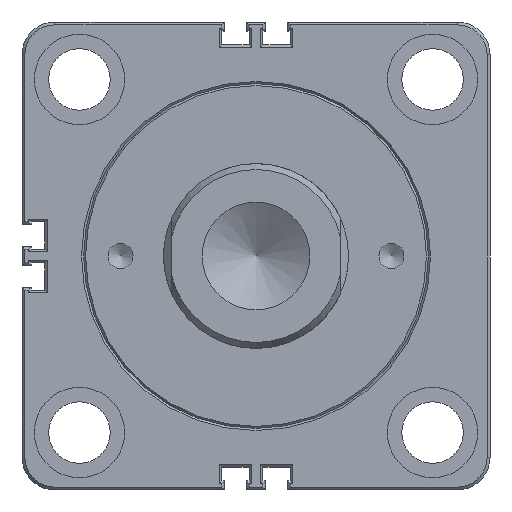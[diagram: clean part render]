
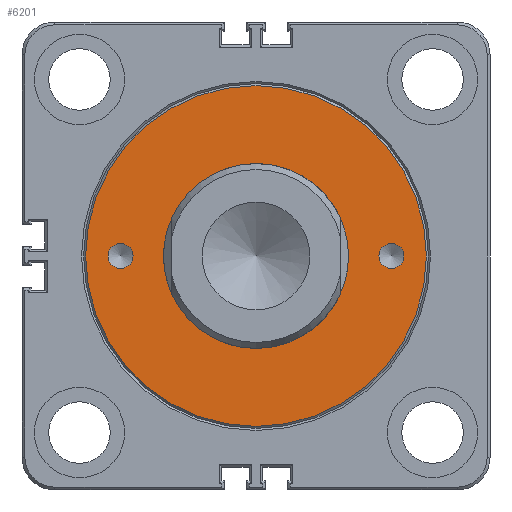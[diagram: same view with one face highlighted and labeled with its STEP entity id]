
A CAD part, front view. The second image highlights one B-rep face of the part: STEP entity #6201.
In plain terms, the highlighted planar face has unit normal (0, -1, 0).
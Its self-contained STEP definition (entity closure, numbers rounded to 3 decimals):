
#127=PLANE('',#6546);
#1165=CIRCLE('',#6543,41.5);
#1166=CIRCLE('',#6545,22.5);
#1167=CIRCLE('',#6547,3.05);
#1168=CIRCLE('',#6548,3.05);
#1862=ORIENTED_EDGE('',*,*,#2798,.T.);
#1863=ORIENTED_EDGE('',*,*,#2797,.F.);
#1864=ORIENTED_EDGE('',*,*,#2799,.T.);
#1865=ORIENTED_EDGE('',*,*,#2796,.T.);
#2796=EDGE_CURVE('',#3262,#3262,#1165,.T.);
#2797=EDGE_CURVE('',#3263,#3263,#1166,.T.);
#2798=EDGE_CURVE('',#3264,#3264,#1167,.T.);
#2799=EDGE_CURVE('',#3265,#3265,#1168,.T.);
#3262=VERTEX_POINT('',#9387);
#3263=VERTEX_POINT('',#9390);
#3264=VERTEX_POINT('',#9393);
#3265=VERTEX_POINT('',#9395);
#3558=EDGE_LOOP('',(#1862));
#3559=EDGE_LOOP('',(#1863));
#3560=EDGE_LOOP('',(#1864));
#3561=EDGE_LOOP('',(#1865));
#3899=FACE_BOUND('',#3558,.T.);
#3900=FACE_BOUND('',#3559,.T.);
#3901=FACE_BOUND('',#3560,.T.);
#3902=FACE_BOUND('',#3561,.T.);
#6201=ADVANCED_FACE('',(#3899,#3900,#3901,#3902),#127,.T.);
#6543=AXIS2_PLACEMENT_3D('',#9386,#7396,#7397);
#6545=AXIS2_PLACEMENT_3D('',#9389,#7400,#7401);
#6546=AXIS2_PLACEMENT_3D('',#9391,#7402,#7403);
#6547=AXIS2_PLACEMENT_3D('',#9392,#7404,#7405);
#6548=AXIS2_PLACEMENT_3D('',#9394,#7406,#7407);
#7396=DIRECTION('',(0.,-1.,0.));
#7397=DIRECTION('',(0.,0.,-1.));
#7400=DIRECTION('',(0.,-1.,0.));
#7401=DIRECTION('',(1.,0.,0.));
#7402=DIRECTION('',(0.,-1.,0.));
#7403=DIRECTION('',(1.,0.,0.));
#7404=DIRECTION('',(0.,1.,0.));
#7405=DIRECTION('',(0.,0.,-1.));
#7406=DIRECTION('',(0.,1.,0.));
#7407=DIRECTION('',(0.,0.,-1.));
#9386=CARTESIAN_POINT('',(0.,0.,0.));
#9387=CARTESIAN_POINT('',(0.,0.,-41.5));
#9389=CARTESIAN_POINT('',(0.,0.,0.));
#9390=CARTESIAN_POINT('',(22.5,0.,0.));
#9391=CARTESIAN_POINT('',(-49.,0.,49.));
#9392=CARTESIAN_POINT('',(-33.,0.,0.));
#9393=CARTESIAN_POINT('',(-33.,0.,-3.05));
#9394=CARTESIAN_POINT('',(33.,0.,0.));
#9395=CARTESIAN_POINT('',(33.,0.,-3.05));
